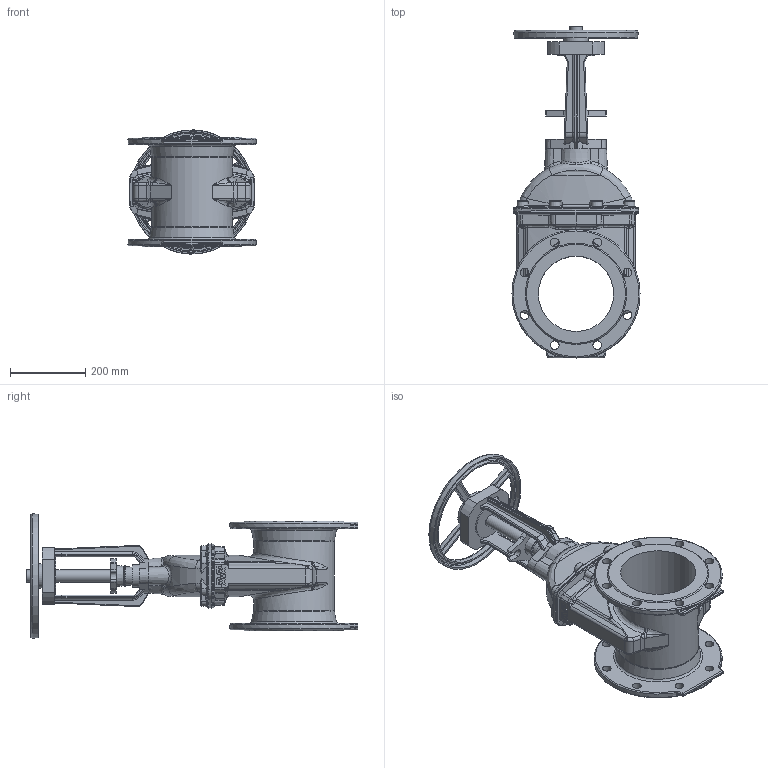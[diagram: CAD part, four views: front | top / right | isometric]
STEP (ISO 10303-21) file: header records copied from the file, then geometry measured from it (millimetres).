
FILE_DESCRIPTION (( 'STEP AP203' ), '1' );
FILE_NAME ('O_21_34_DN200_40XXXXX close_AA0.step', '2020-02-12T09:15:02', ( 'Windows User' ), ( 'AVK' ), 'SwSTEP 2.0', 'SolidWorks 2012', '' );
FILE_SCHEMA (( 'CONFIG_CONTROL_DESIGN' ));
Length unit declared in the file: millimetre
Products named in the file (1): O_21_34_DN200_40XXXXX close_AA0
Bounding box: 340 x 881.37 x 329.91 mm (x, y, z)
Volume: 14585652.9 mm3; surface area: 1214592.4 mm2
Topology: 1 solids, 1 shells, 811 faces, 2084 edges, 1265 vertices
Faces by surface type: cylinder 215, plane 208, bspline 208, cone 100, torus 64, sphere 16
Full cylindrical faces by diameter (mm): 23 x16, 32 x2, 47.9 x1, 54 x1, 60 x1, 65 x1, 100 x1, 105 x1, 200 x1, 214 x1, 340 x2
Entity records: 34423 total; most frequent: CARTESIAN_POINT 17221, ORIENTED_EDGE 3958, DIRECTION 3066, EDGE_CURVE 1979, VERTEX_POINT 1234, AXIS2_PLACEMENT_3D 1207, EDGE_LOOP 921, FACE_OUTER_BOUND 849
